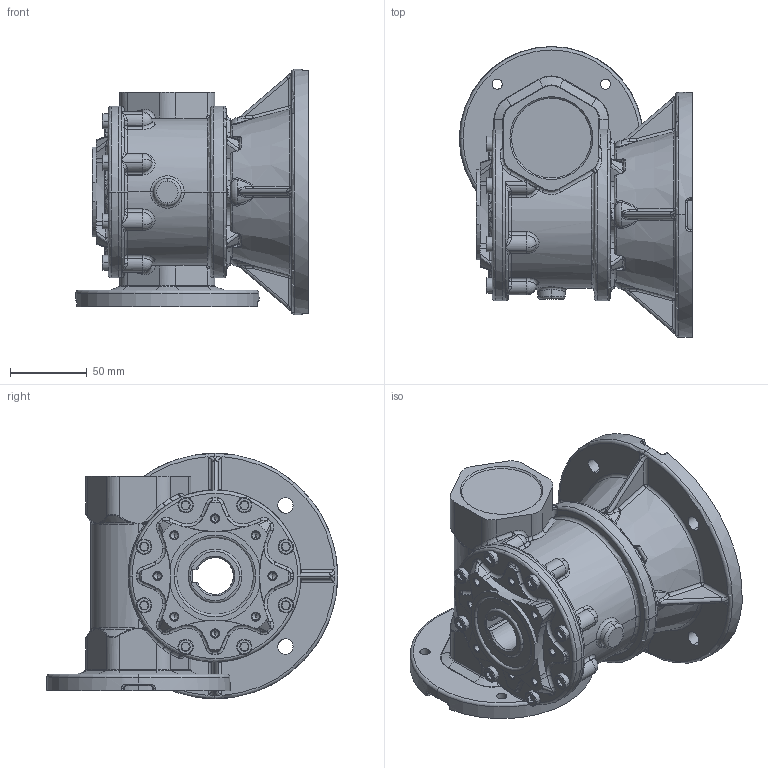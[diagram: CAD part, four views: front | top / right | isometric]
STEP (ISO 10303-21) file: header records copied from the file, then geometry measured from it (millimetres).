
FILE_DESCRIPTION (( 'STEP AP214' ), '1' );
FILE_NAME ('mrt50a-ffl-63-100.step', '2011-10-12T06:07:47', ( '' ), ( '' ), 'SwSTEP 2.0', 'SolidWorks 2010', '' );
FILE_SCHEMA (( 'AUTOMOTIVE_DESIGN' ));
Length unit declared in the file: millimetre
Products named in the file (6): MRT50A_MRT50A-AP63; pøíruba 100 d52 MRT50a_priruba 85-MRT50; Sroub DIN 6912_M5x16; Adaptér FF50; Sroub DIN 6912_M6x20; mrt50a-ffl-63-100
Assembly tree (13 placements, depth 2):
  mrt50a-ffl-63-100
    Sroub DIN 6912_M6x20  x4
    Sroub DIN 6912_M5x16  x6
    pøíruba 100 d52 MRT50a_priruba 85-MRT50
    MRT50A_MRT50A-AP63
    Adaptér FF50
Bounding box: 151.84 x 190 x 160 mm (x, y, z)
Volume: 1187276.8 mm3; surface area: 194134.3 mm2
Topology: 13 solids, 15 shells, 2147 faces, 5071 edges, 2838 vertices
Faces by surface type: torus 460, cylinder 454, bspline 447, cone 390, plane 346, sphere 50
Entity records: 122758 total; most frequent: CARTESIAN_POINT 77418, ORIENTED_EDGE 8726, DIRECTION 8584, EDGE_CURVE 4363, AXIS2_PLACEMENT_3D 3842, VERTEX_POINT 2534, CIRCLE 2382, EDGE_LOOP 1981
